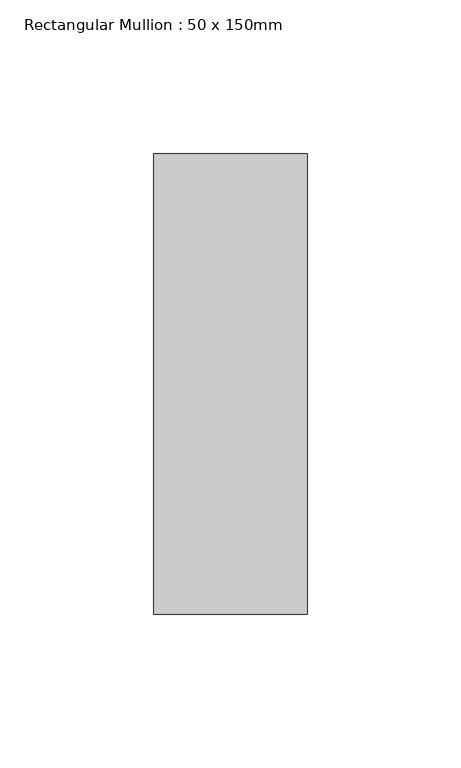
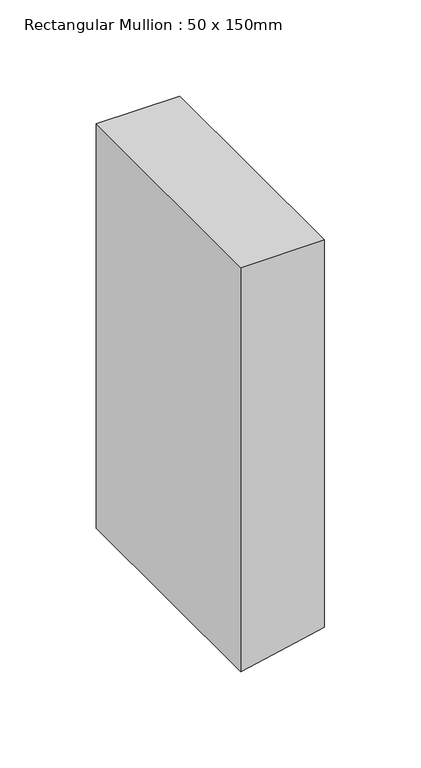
"""IFC4 building model written with IfcOpenShell, lengths in millimetres: member geometry, Rectangular Mullion : 50 x 150mm."""

from ifc_helpers import new_model, si_unit, frame, origin, place, context, project, spatial, polyline, outline, extrude, source, transform, mapped, element, save


def rectangular_mullion_50_x_150mm_e5e13951(model_context):
    return source(origin(), model_context, "Body", "SweptSolid", [
        extrude(outline(polyline([(0.0, 25.0), (0.0, -25.0), (-256.0996112, -25.0), (-252.9894364, -10.4556584), (-245.4075672, 25.0), (0.0, 25.0)])), frame((0.0, -75.0, 0.0), z_axis=(0.0, 1.0, 0.0), x_axis=(0.0, 0.0, 1.0)), (0.0, 0.0, 1.0), 150.0),
    ])


if __name__ == "__main__":
    model = new_model("IFC4")
    model_context = context("Model", 3, world=origin())
    ifc_project = project(units=[si_unit("LENGTHUNIT", "METRE", prefix="MILLI")], contexts=[model_context])
    site = spatial("IfcSite", under=ifc_project)
    building = spatial("IfcBuilding", under=site)
    placement = place(None, origin())
    rectangular_mullion_50_x_150mm_shape = rectangular_mullion_50_x_150mm_e5e13951(model_context)
    element("IfcMember", 1, ObjectType="Rectangular Mullion : 50 x 150mm", at=placement, inside=building, context=model_context, shape_type="MappedRepresentation", body=[
        mapped(rectangular_mullion_50_x_150mm_shape, transform((0.0, 0.0, 0.0), x_axis=(1.0, 0.0, 0.0), y_axis=(0.0, 1.0, 0.0), z_axis=(0.0, 0.0, 1.0))),
    ])
    save(model, "model.ifc")
